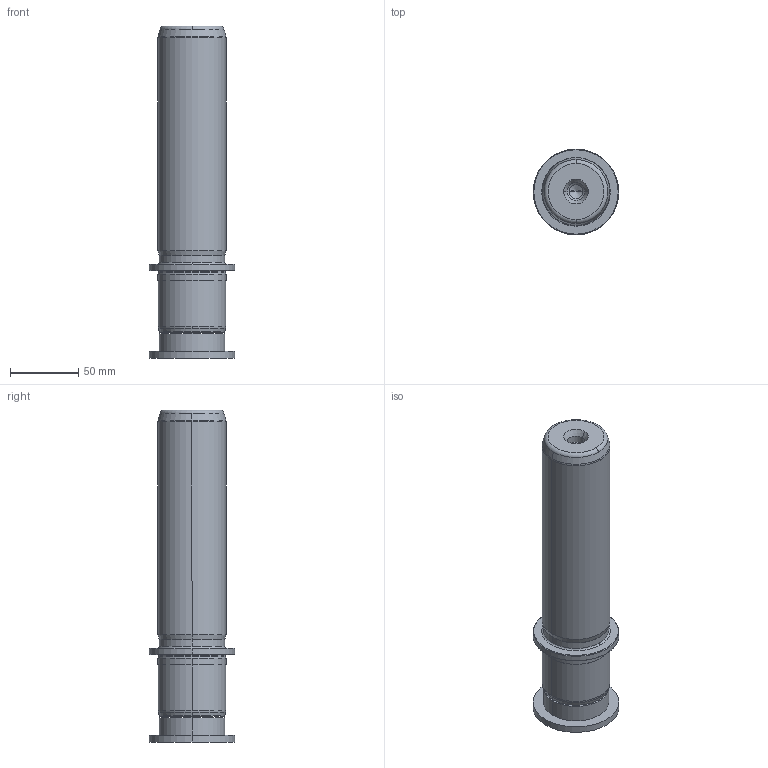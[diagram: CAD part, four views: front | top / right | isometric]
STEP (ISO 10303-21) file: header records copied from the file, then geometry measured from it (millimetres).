
FILE_DESCRIPTION((''),'2;1');
FILE_NAME('P22_050_180.stp','2009-11-02T10:47:53',(''),(''),'Mechanical Desktop 2009','Mechanical Desktop 2009',', , ');
FILE_SCHEMA(('CONFIG_CONTROL_DESIGN'));
Length unit declared in the file: millimetre
Products named in the file (2): Product; blmdl1
Assembly tree (1 placements, depth 2):
  Product
    blmdl1
Bounding box: 63 x 63 x 244 mm (x, y, z)
Volume: 477192.8 mm3; surface area: 55990.9 mm2
Topology: 3 solids, 3 shells, 99 faces, 237 edges, 149 vertices
Faces by surface type: cylinder 32, cone 28, plane 19, torus 10, bspline 10
Entity records: 3419 total; most frequent: CARTESIAN_POINT 923, DIRECTION 570, ORIENTED_EDGE 466, AXIS2_PLACEMENT_3D 246, EDGE_CURVE 233, CIRCLE 155, VERTEX_POINT 149, EDGE_LOOP 110
